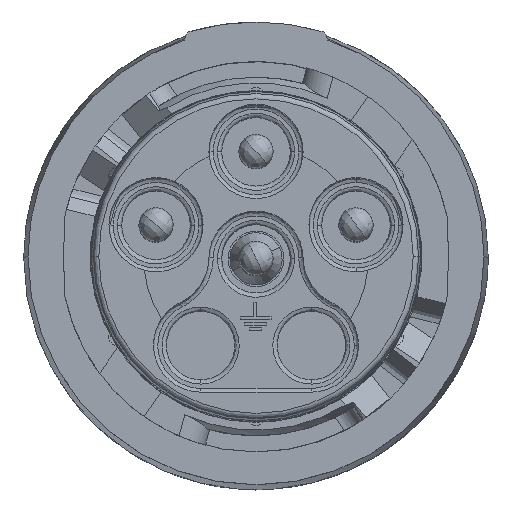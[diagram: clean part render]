
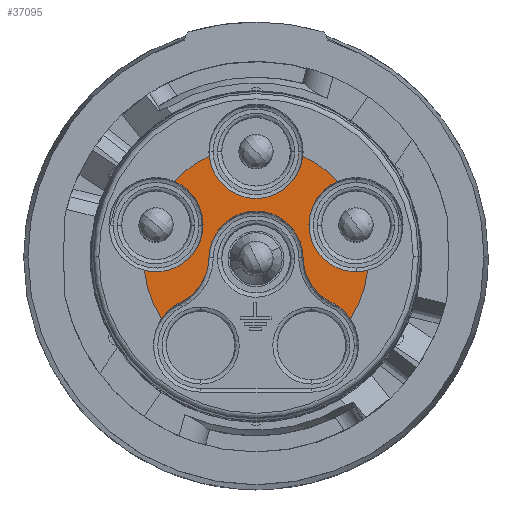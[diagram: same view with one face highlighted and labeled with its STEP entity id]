
A CAD part, top view. The second image highlights one B-rep face of the part: STEP entity #37095.
In plain terms, the highlighted planar face has unit normal (0, 0, 1).
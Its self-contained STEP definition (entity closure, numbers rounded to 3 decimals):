
#187 = CARTESIAN_POINT ( 'NONE',  ( 3.476, 0.453, 1.08 ) ) ;
#940 = AXIS2_PLACEMENT_3D ( 'NONE', #19413, #9931, #31381 ) ;
#1598 = DIRECTION ( 'NONE',  ( 0., 0., 1. ) ) ;
#2338 = EDGE_CURVE ( 'NONE', #39471, #28275, #40850, .T. ) ;
#3284 = CARTESIAN_POINT ( 'NONE',  ( 1.001, -1.076, 1.08 ) ) ;
#3526 = CIRCLE ( 'NONE', #12544, 2.2 ) ;
#3629 = DIRECTION ( 'NONE',  ( 1., 0., 0. ) ) ;
#3742 = CARTESIAN_POINT ( 'NONE',  ( 1.392, -5.173, 1.08 ) ) ;
#3918 = AXIS2_PLACEMENT_3D ( 'NONE', #8844, #24944, #8167 ) ;
#4054 = CARTESIAN_POINT ( 'NONE',  ( -1.199, 3.886, 1.08 ) ) ;
#4155 = CARTESIAN_POINT ( 'NONE',  ( -5.874, 0.453, 1.08 ) ) ;
#4329 = PLANE ( 'NONE',  #19342 ) ;
#4623 = AXIS2_PLACEMENT_3D ( 'NONE', #4155, #68209, #67864 ) ;
#5078 = CARTESIAN_POINT ( 'NONE',  ( -5.618, -3.949, 1.08 ) ) ;
#5162 = ORIENTED_EDGE ( 'NONE', *, *, #7344, .T. ) ;
#6234 = CARTESIAN_POINT ( 'NONE',  ( 2.352, -3.194, 1.08 ) ) ;
#7344 = EDGE_CURVE ( 'NONE', #68029, #40214, #26540, .T. ) ;
#7637 = DIRECTION ( 'NONE',  ( 0., 0., 1. ) ) ;
#7743 = CIRCLE ( 'NONE', #31267, 2.2 ) ;
#7930 = CARTESIAN_POINT ( 'NONE',  ( -4.751, -3.194, 1.08 ) ) ;
#8167 = DIRECTION ( 'NONE',  ( 1., 0., 0. ) ) ;
#8285 = EDGE_CURVE ( 'NONE', #21260, #24801, #12180, .T. ) ;
#8844 = CARTESIAN_POINT ( 'NONE',  ( -1.199, -1.114, 1.08 ) ) ;
#9625 = ORIENTED_EDGE ( 'NONE', *, *, #56800, .T. ) ;
#9931 = DIRECTION ( 'NONE',  ( 0., 0., -1. ) ) ;
#10091 = DIRECTION ( 'NONE',  ( 1., 0., 0. ) ) ;
#10434 = DIRECTION ( 'NONE',  ( 0., 0., -1. ) ) ;
#10758 = CIRCLE ( 'NONE', #33261, 2.2 ) ;
#11526 = EDGE_CURVE ( 'NONE', #39193, #48830, #47689, .T. ) ;
#12154 = CARTESIAN_POINT ( 'NONE',  ( 3.22, -3.949, 1.08 ) ) ;
#12180 = CIRCLE ( 'NONE', #32433, 2.4 ) ;
#12544 = AXIS2_PLACEMENT_3D ( 'NONE', #4054, #62147, #30130 ) ;
#12719 = DIRECTION ( 'NONE',  ( 1., 0., 0. ) ) ;
#13376 = CARTESIAN_POINT ( 'NONE',  ( -3.387, 3.658, 1.08 ) ) ;
#13542 = CARTESIAN_POINT ( 'NONE',  ( 4.02, -1.678, 1.08 ) ) ;
#13666 = VERTEX_POINT ( 'NONE', #33470 ) ;
#14574 = DIRECTION ( 'NONE',  ( 0., 0., 1. ) ) ;
#15017 = EDGE_LOOP ( 'NONE', ( #30016, #22089, #20653, #31770, #5162, #47956, #54638, #37447, #9625, #37556, #47919, #29018, #21402, #25067 ) ) ;
#17179 = CARTESIAN_POINT ( 'NONE',  ( 1.276, 0.453, 1.08 ) ) ;
#18791 = VERTEX_POINT ( 'NONE', #3284 ) ;
#19165 = DIRECTION ( 'NONE',  ( 1., 0., 0. ) ) ;
#19342 = AXIS2_PLACEMENT_3D ( 'NONE', #19465, #14574, #3629 ) ;
#19413 = CARTESIAN_POINT ( 'NONE',  ( 3.476, 0.453, 1.08 ) ) ;
#19465 = CARTESIAN_POINT ( 'NONE',  ( -1.199, 1.386, 1.08 ) ) ;
#19529 = EDGE_CURVE ( 'NONE', #13666, #68542, #48889, .T. ) ;
#20653 = ORIENTED_EDGE ( 'NONE', *, *, #2338, .T. ) ;
#21159 = CIRCLE ( 'NONE', #940, 2.2 ) ;
#21260 = VERTEX_POINT ( 'NONE', #7930 ) ;
#21402 = ORIENTED_EDGE ( 'NONE', *, *, #11526, .T. ) ;
#22089 = ORIENTED_EDGE ( 'NONE', *, *, #36786, .T. ) ;
#23324 = AXIS2_PLACEMENT_3D ( 'NONE', #3742, #10434, #31892 ) ;
#23962 = EDGE_CURVE ( 'NONE', #18791, #32746, #51845, .T. ) ;
#24306 = CARTESIAN_POINT ( 'NONE',  ( -1.199, -1.114, 1.08 ) ) ;
#24501 = CARTESIAN_POINT ( 'NONE',  ( -3.674, 0.453, 1.08 ) ) ;
#24801 = VERTEX_POINT ( 'NONE', #32408 ) ;
#24944 = DIRECTION ( 'NONE',  ( 0., 0., 1. ) ) ;
#25067 = ORIENTED_EDGE ( 'NONE', *, *, #59591, .T. ) ;
#26540 = CIRCLE ( 'NONE', #34464, 2.2 ) ;
#26590 = DIRECTION ( 'NONE',  ( 0., 0., -1. ) ) ;
#27245 = EDGE_CURVE ( 'NONE', #27325, #21260, #7743, .T. ) ;
#27253 = DIRECTION ( 'NONE',  ( 0., 0., -1. ) ) ;
#27325 = VERTEX_POINT ( 'NONE', #5078 ) ;
#28275 = VERTEX_POINT ( 'NONE', #41571 ) ;
#29018 = ORIENTED_EDGE ( 'NONE', *, *, #42229, .T. ) ;
#30016 = ORIENTED_EDGE ( 'NONE', *, *, #19529, .T. ) ;
#30130 = DIRECTION ( 'NONE',  ( 1., 0., 0. ) ) ;
#30488 = AXIS2_PLACEMENT_3D ( 'NONE', #49819, #1598, #55811 ) ;
#30765 = CARTESIAN_POINT ( 'NONE',  ( -3.79, -5.173, 1.08 ) ) ;
#31267 = AXIS2_PLACEMENT_3D ( 'NONE', #30765, #36725, #64574 ) ;
#31381 = DIRECTION ( 'NONE',  ( 1., 0., 0. ) ) ;
#31770 = ORIENTED_EDGE ( 'NONE', *, *, #36526, .T. ) ;
#31892 = DIRECTION ( 'NONE',  ( 1., 0., 0. ) ) ;
#32378 = CIRCLE ( 'NONE', #42404, 5.25 ) ;
#32408 = CARTESIAN_POINT ( 'NONE',  ( -3.399, -1.076, 1.08 ) ) ;
#32433 = AXIS2_PLACEMENT_3D ( 'NONE', #61450, #7637, #45543 ) ;
#32746 = VERTEX_POINT ( 'NONE', #6234 ) ;
#33261 = AXIS2_PLACEMENT_3D ( 'NONE', #53383, #26590, #65016 ) ;
#33470 = CARTESIAN_POINT ( 'NONE',  ( 2.626, 2.482, 1.08 ) ) ;
#33846 = CIRCLE ( 'NONE', #4623, 2.2 ) ;
#34464 = AXIS2_PLACEMENT_3D ( 'NONE', #52693, #52322, #10091 ) ;
#36526 = EDGE_CURVE ( 'NONE', #28275, #68029, #33846, .T. ) ;
#36725 = DIRECTION ( 'NONE',  ( 0., 0., -1. ) ) ;
#36786 = EDGE_CURVE ( 'NONE', #68542, #39471, #3526, .T. ) ;
#37095 = ADVANCED_FACE ( 'NONE', ( #57824 ), #4329, .T. ) ;
#37447 = ORIENTED_EDGE ( 'NONE', *, *, #8285, .T. ) ;
#37556 = ORIENTED_EDGE ( 'NONE', *, *, #23962, .T. ) ;
#37825 = AXIS2_PLACEMENT_3D ( 'NONE', #47272, #67389, #19165 ) ;
#39193 = VERTEX_POINT ( 'NONE', #13542 ) ;
#39422 = CARTESIAN_POINT ( 'NONE',  ( -1.199, -1.114, 1.08 ) ) ;
#39471 = VERTEX_POINT ( 'NONE', #13376 ) ;
#40214 = VERTEX_POINT ( 'NONE', #48457 ) ;
#40850 = CIRCLE ( 'NONE', #64560, 5.25 ) ;
#41571 = CARTESIAN_POINT ( 'NONE',  ( -5.024, 2.482, 1.08 ) ) ;
#42229 = EDGE_CURVE ( 'NONE', #64028, #39193, #32378, .T. ) ;
#42404 = AXIS2_PLACEMENT_3D ( 'NONE', #24306, #45775, #66595 ) ;
#45543 = DIRECTION ( 'NONE',  ( 1., 0., 0. ) ) ;
#45775 = DIRECTION ( 'NONE',  ( 0., 0., 1. ) ) ;
#47272 = CARTESIAN_POINT ( 'NONE',  ( -1.199, -1.114, 1.08 ) ) ;
#47689 = CIRCLE ( 'NONE', #56733, 2.2 ) ;
#47919 = ORIENTED_EDGE ( 'NONE', *, *, #59136, .T. ) ;
#47956 = ORIENTED_EDGE ( 'NONE', *, *, #58588, .T. ) ;
#48457 = CARTESIAN_POINT ( 'NONE',  ( -6.419, -1.678, 1.08 ) ) ;
#48830 = VERTEX_POINT ( 'NONE', #17179 ) ;
#48889 = CIRCLE ( 'NONE', #3918, 5.25 ) ;
#49819 = CARTESIAN_POINT ( 'NONE',  ( 3.4, -1.035, 1.08 ) ) ;
#51845 = CIRCLE ( 'NONE', #30488, 2.4 ) ;
#52322 = DIRECTION ( 'NONE',  ( 0., 0., -1. ) ) ;
#52693 = CARTESIAN_POINT ( 'NONE',  ( -5.874, 0.453, 1.08 ) ) ;
#53383 = CARTESIAN_POINT ( 'NONE',  ( -1.199, -1.114, 1.08 ) ) ;
#53940 = DIRECTION ( 'NONE',  ( 0., 0., 1. ) ) ;
#54638 = ORIENTED_EDGE ( 'NONE', *, *, #27245, .T. ) ;
#55811 = DIRECTION ( 'NONE',  ( 1., 0., 0. ) ) ;
#56733 = AXIS2_PLACEMENT_3D ( 'NONE', #187, #27253, #59999 ) ;
#56800 = EDGE_CURVE ( 'NONE', #24801, #18791, #10758, .T. ) ;
#57824 = FACE_OUTER_BOUND ( 'NONE', #15017, .T. ) ;
#58114 = CIRCLE ( 'NONE', #37825, 5.25 ) ;
#58588 = EDGE_CURVE ( 'NONE', #40214, #27325, #58114, .T. ) ;
#59136 = EDGE_CURVE ( 'NONE', #32746, #64028, #63879, .T. ) ;
#59591 = EDGE_CURVE ( 'NONE', #48830, #13666, #21159, .T. ) ;
#59999 = DIRECTION ( 'NONE',  ( 1., 0., 0. ) ) ;
#61450 = CARTESIAN_POINT ( 'NONE',  ( -5.798, -1.035, 1.08 ) ) ;
#62147 = DIRECTION ( 'NONE',  ( 0., 0., -1. ) ) ;
#62925 = CARTESIAN_POINT ( 'NONE',  ( 0.989, 3.658, 1.08 ) ) ;
#63879 = CIRCLE ( 'NONE', #23324, 2.2 ) ;
#64028 = VERTEX_POINT ( 'NONE', #12154 ) ;
#64560 = AXIS2_PLACEMENT_3D ( 'NONE', #39422, #53940, #12719 ) ;
#64574 = DIRECTION ( 'NONE',  ( 1., 0., 0. ) ) ;
#65016 = DIRECTION ( 'NONE',  ( 1., 0., 0. ) ) ;
#66595 = DIRECTION ( 'NONE',  ( 1., 0., 0. ) ) ;
#67389 = DIRECTION ( 'NONE',  ( 0., 0., 1. ) ) ;
#67864 = DIRECTION ( 'NONE',  ( 1., 0., 0. ) ) ;
#68029 = VERTEX_POINT ( 'NONE', #24501 ) ;
#68209 = DIRECTION ( 'NONE',  ( 0., 0., -1. ) ) ;
#68542 = VERTEX_POINT ( 'NONE', #62925 ) ;
